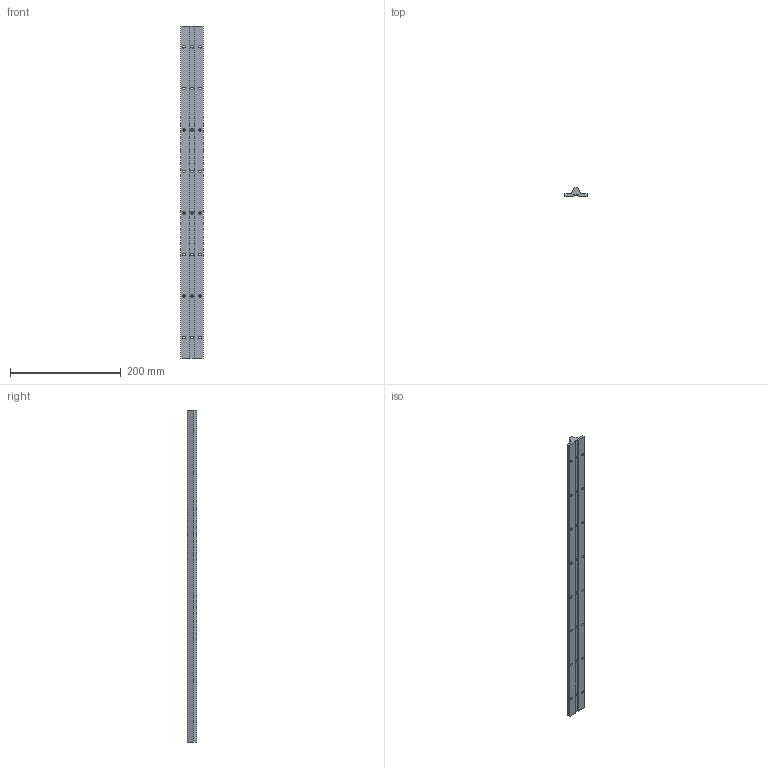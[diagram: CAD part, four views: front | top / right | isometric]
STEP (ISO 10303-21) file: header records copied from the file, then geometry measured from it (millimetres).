
FILE_DESCRIPTION (( 'STEP AP203' ), '1' );
FILE_NAME ('KWU50-12 T1-T2.step', '2020-03-23T07:55:06', ( '' ), ( '' ), 'SwSTEP 2.0', 'SolidWorks 2019', '' );
FILE_SCHEMA (( 'CONFIG_CONTROL_DESIGN' ));
Length unit declared in the file: millimetre
Products named in the file (2): KWU50-12 T1-T2
Bounding box: 40 x 16.62 x 599.5 mm (x, y, z)
Volume: 181444 mm3; surface area: 68520 mm2
Topology: 1 solids, 1 shells, 63 faces, 191 edges, 122 vertices
Faces by surface type: cylinder 48, plane 15
Entity records: 2408 total; most frequent: CARTESIAN_POINT 426, DIRECTION 385, ORIENTED_EDGE 382, EDGE_CURVE 191, AXIS2_PLACEMENT_3D 145, VERTEX_POINT 122, EDGE_LOOP 103, VECTOR 95
